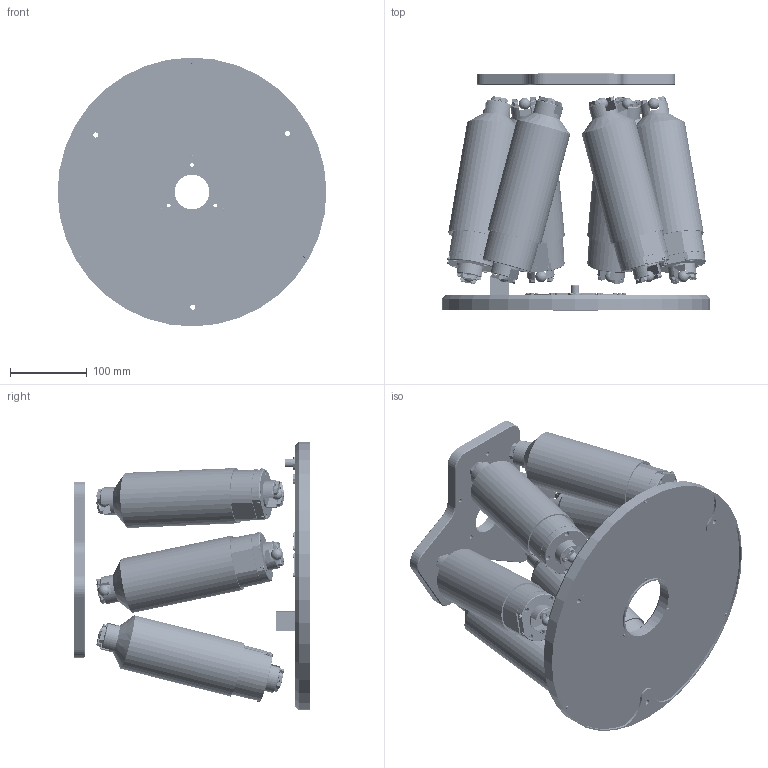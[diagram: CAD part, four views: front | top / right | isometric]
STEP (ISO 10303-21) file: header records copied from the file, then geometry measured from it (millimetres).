
FILE_DESCRIPTION (( 'STEP AP203' ), '1' );
FILE_NAME ('H-820.D2_KUNDENMODELL H-820.D2PRT.step', '2019-04-23T12:53:23', ( '' ), ( '' ), 'SwSTEP 2.0', 'SolidWorks 2016', '' );
FILE_SCHEMA (( 'CONFIG_CONTROL_DESIGN' ));
Length unit declared in the file: millimetre
Products named in the file (1): H-820.D2_KUNDENMODELL H-820.D2PRT
Bounding box: 349.99 x 308.01 x 349.99 mm (x, y, z)
Volume: 4986011.6 mm3; surface area: 1327208.9 mm2
Topology: 177 solids, 177 shells, 5242 faces, 12356 edges, 7676 vertices
Faces by surface type: plane 2176, cylinder 2005, cone 557, torus 290, bspline 190, sphere 24
Entity records: 155090 total; most frequent: CARTESIAN_POINT 32727, DIRECTION 27108, ORIENTED_EDGE 24300, EDGE_CURVE 12150, AXIS2_PLACEMENT_3D 10818, VERTEX_POINT 7640, EDGE_LOOP 5946, CIRCLE 5765
